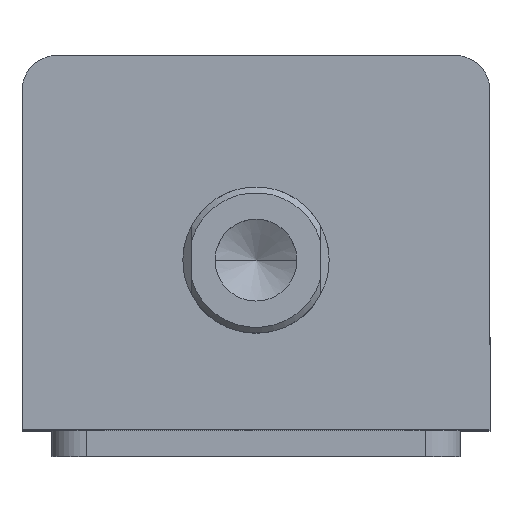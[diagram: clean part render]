
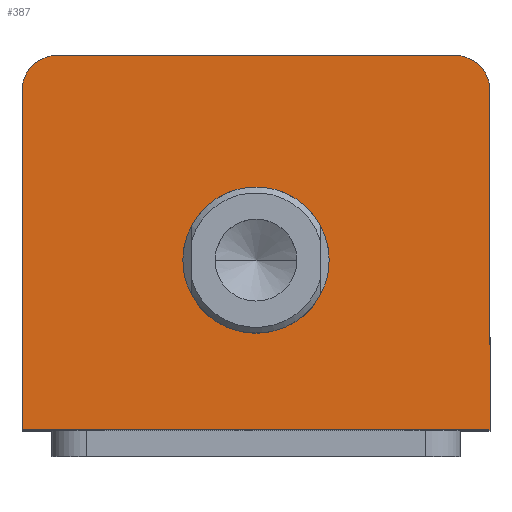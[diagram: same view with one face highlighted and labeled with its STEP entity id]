
A CAD part, top view. The second image highlights one B-rep face of the part: STEP entity #387.
In plain terms, the highlighted planar face has unit normal (0, 0, 1).
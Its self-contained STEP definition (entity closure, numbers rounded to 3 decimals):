
#94 = DIRECTION ( 'NONE',  ( -1., 0., 0. ) ) ;
#95 = DIRECTION ( 'NONE',  ( 1., 0., 0. ) ) ;
#96 = DIRECTION ( 'NONE',  ( 0., 0., 1. ) ) ;
#97 = CARTESIAN_POINT ( 'NONE',  ( -40., 32., 160. ) ) ;
#98 = CARTESIAN_POINT ( 'NONE',  ( 0., -3., 160. ) ) ;
#130 = VERTEX_POINT ( 'NONE', #2787 ) ;
#325 = EDGE_CURVE ( 'NONE', #813, #130, #2517, .T. ) ;
#387 = ADVANCED_FACE ( 'NONE', ( #2594, #2597 ), #3494, .T. ) ;
#522 = CARTESIAN_POINT ( 'NONE',  ( -12.5, -3., 160. ) ) ;
#530 = CARTESIAN_POINT ( 'NONE',  ( -40., -32., 160. ) ) ;
#583 = CARTESIAN_POINT ( 'NONE',  ( 12.5, -3., 160. ) ) ;
#790 = VERTEX_POINT ( 'NONE', #583 ) ;
#813 = VERTEX_POINT ( 'NONE', #530 ) ;
#819 = VERTEX_POINT ( 'NONE', #522 ) ;
#850 = EDGE_CURVE ( 'NONE', #1003, #1052, #1264, .T. ) ;
#854 = EDGE_CURVE ( 'NONE', #1052, #813, #1267, .T. ) ;
#871 = DIRECTION ( 'NONE',  ( 1., 0., 0. ) ) ;
#872 = DIRECTION ( 'NONE',  ( 0., 0., 1. ) ) ;
#873 = CARTESIAN_POINT ( 'NONE',  ( 0., -3., 160. ) ) ;
#905 = DIRECTION ( 'NONE',  ( 1., 0., 0. ) ) ;
#906 = DIRECTION ( 'NONE',  ( 0., 0., 1. ) ) ;
#907 = CARTESIAN_POINT ( 'NONE',  ( 34., 26., 160. ) ) ;
#934 = DIRECTION ( 'NONE',  ( 0., 1., 0. ) ) ;
#935 = CARTESIAN_POINT ( 'NONE',  ( 40., 32., 160. ) ) ;
#997 = VERTEX_POINT ( 'NONE', #3131 ) ;
#1003 = VERTEX_POINT ( 'NONE', #3123 ) ;
#1049 = VERTEX_POINT ( 'NONE', #3051 ) ;
#1052 = VERTEX_POINT ( 'NONE', #3047 ) ;
#1264 = CIRCLE ( 'NONE', #1882, 6. ) ;
#1267 = LINE ( 'NONE', #2976, #1270 ) ;
#1270 = VECTOR ( 'NONE', #2958, 1000. ) ;
#1360 = LINE ( 'NONE', #935, #1363 ) ;
#1363 = VECTOR ( 'NONE', #934, 1000. ) ;
#1369 = CIRCLE ( 'NONE', #1922, 6. ) ;
#1382 = CIRCLE ( 'NONE', #1927, 12.5 ) ;
#1403 = LINE ( 'NONE', #97, #1406 ) ;
#1406 = VECTOR ( 'NONE', #94, 1000. ) ;
#1434 = CIRCLE ( 'NONE', #1935, 12.5 ) ;
#1787 = AXIS2_PLACEMENT_3D ( 'NONE', #3493, #3484, #3483 ) ;
#1882 = AXIS2_PLACEMENT_3D ( 'NONE', #3011, #3010, #3008 ) ;
#1922 = AXIS2_PLACEMENT_3D ( 'NONE', #907, #906, #905 ) ;
#1927 = AXIS2_PLACEMENT_3D ( 'NONE', #873, #872, #871 ) ;
#1935 = AXIS2_PLACEMENT_3D ( 'NONE', #98, #96, #95 ) ;
#2113 = ORIENTED_EDGE ( 'NONE', *, *, #2838, .T. ) ;
#2114 = ORIENTED_EDGE ( 'NONE', *, *, #2830, .T. ) ;
#2115 = ORIENTED_EDGE ( 'NONE', *, *, #325, .T. ) ;
#2116 = ORIENTED_EDGE ( 'NONE', *, *, #854, .T. ) ;
#2117 = ORIENTED_EDGE ( 'NONE', *, *, #850, .T. ) ;
#2118 = ORIENTED_EDGE ( 'NONE', *, *, #2860, .T. ) ;
#2119 = ORIENTED_EDGE ( 'NONE', *, *, #3552, .F. ) ;
#2120 = ORIENTED_EDGE ( 'NONE', *, *, #2847, .F. ) ;
#2333 = EDGE_LOOP ( 'NONE', ( #2118, #2117, #2116, #2115, #2114, #2113 ) ) ;
#2345 = EDGE_LOOP ( 'NONE', ( #2120, #2119 ) ) ;
#2517 = LINE ( 'NONE', #2685, #2524 ) ;
#2524 = VECTOR ( 'NONE', #2644, 1000. ) ;
#2594 = FACE_BOUND ( 'NONE', #2345, .T. ) ;
#2597 = FACE_OUTER_BOUND ( 'NONE', #2333, .T. ) ;
#2644 = DIRECTION ( 'NONE',  ( 1., 0., 0. ) ) ;
#2685 = CARTESIAN_POINT ( 'NONE',  ( -40., -32., 160. ) ) ;
#2787 = CARTESIAN_POINT ( 'NONE',  ( 40., -32., 160. ) ) ;
#2830 = EDGE_CURVE ( 'NONE', #130, #1049, #1360, .T. ) ;
#2838 = EDGE_CURVE ( 'NONE', #1049, #997, #1369, .T. ) ;
#2847 = EDGE_CURVE ( 'NONE', #790, #819, #1382, .T. ) ;
#2860 = EDGE_CURVE ( 'NONE', #997, #1003, #1403, .T. ) ;
#2958 = DIRECTION ( 'NONE',  ( 0., -1., 0. ) ) ;
#2976 = CARTESIAN_POINT ( 'NONE',  ( -40., 32., 160. ) ) ;
#3008 = DIRECTION ( 'NONE',  ( 1., 0., 0. ) ) ;
#3010 = DIRECTION ( 'NONE',  ( 0., 0., 1. ) ) ;
#3011 = CARTESIAN_POINT ( 'NONE',  ( -34., 26., 160. ) ) ;
#3047 = CARTESIAN_POINT ( 'NONE',  ( -40., 26., 160. ) ) ;
#3051 = CARTESIAN_POINT ( 'NONE',  ( 40., 26., 160. ) ) ;
#3123 = CARTESIAN_POINT ( 'NONE',  ( -34., 32., 160. ) ) ;
#3131 = CARTESIAN_POINT ( 'NONE',  ( 34., 32., 160. ) ) ;
#3483 = DIRECTION ( 'NONE',  ( 1., 0., 0. ) ) ;
#3484 = DIRECTION ( 'NONE',  ( 0., 0., 1. ) ) ;
#3493 = CARTESIAN_POINT ( 'NONE',  ( 0., 0., 160. ) ) ;
#3494 = PLANE ( 'NONE',  #1787 ) ;
#3552 = EDGE_CURVE ( 'NONE', #819, #790, #1434, .T. ) ;
